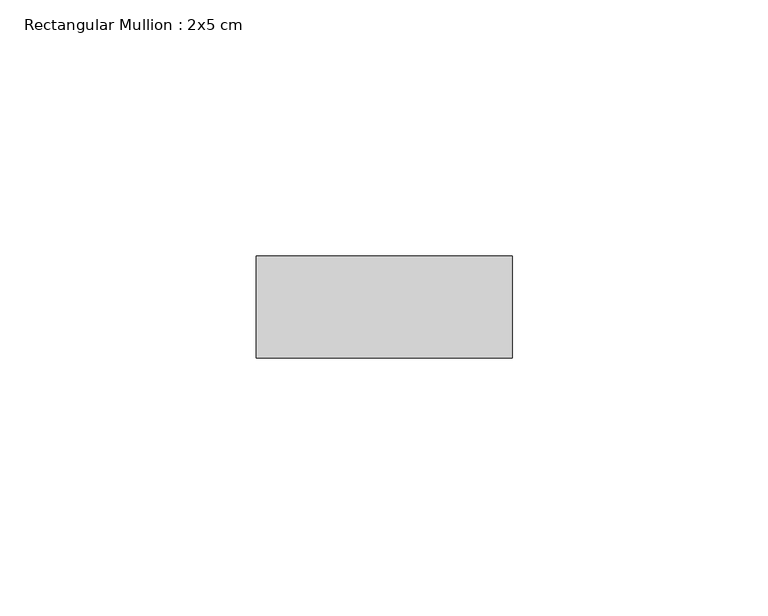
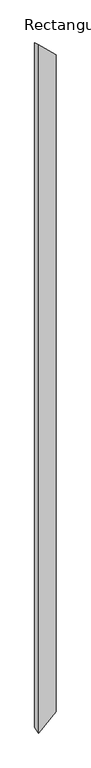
"""IFC4 building model written with IfcOpenShell, lengths in millimetres: member geometry, Rectangular Mullion : 2x5 cm."""

from ifc_helpers import new_model, si_unit, origin, place, context, project, spatial, faceted_brep, source, transform, mapped, element, save


def rectangular_mullion_2x5_cm_fc4e4f32(model_context):
    return source(origin(), model_context, "Body", "Brep", [
        faceted_brep([(0.0, 20.0, -5.7469577), (50.0, 20.0, -53.638272), (50.0, 20.0, -2034.569821), (0.0, 20.0, -2082.4611352), (0.0, 0.0, 0.0), (0.0, 0.0, -2088.2080929), (50.0, 0.0, -47.8913143), (50.0, 0.0, -2040.3167787)], [[[0, 1, 2, 3]], [[4, 0, 3, 5]], [[6, 4, 5, 7]], [[1, 6, 7, 2]], [[1, 0, 4, 6]], [[2, 7, 5, 3]]]),
    ])


if __name__ == "__main__":
    model = new_model("IFC4")
    model_context = context("Model", 3, world=origin())
    ifc_project = project(units=[si_unit("LENGTHUNIT", "METRE", prefix="MILLI")], contexts=[model_context])
    site = spatial("IfcSite", under=ifc_project)
    building = spatial("IfcBuilding", under=site)
    placement = place(None, origin())
    rectangular_mullion_2x5_cm_shape = rectangular_mullion_2x5_cm_fc4e4f32(model_context)
    element("IfcMember", 1, ObjectType="Rectangular Mullion : 2x5 cm", at=placement, inside=building, context=model_context, shape_type="MappedRepresentation", body=[
        mapped(rectangular_mullion_2x5_cm_shape, transform((0.0, 0.0, 0.0), x_axis=(1.0, 0.0, 0.0), y_axis=(0.0, 1.0, 0.0), z_axis=(0.0, 0.0, 1.0))),
    ])
    save(model, "model.ifc")
